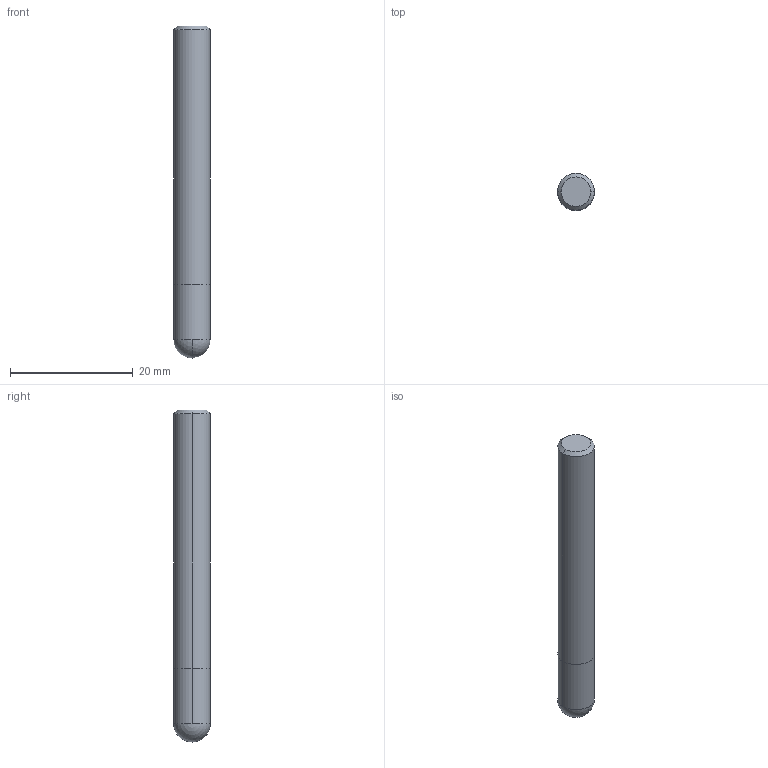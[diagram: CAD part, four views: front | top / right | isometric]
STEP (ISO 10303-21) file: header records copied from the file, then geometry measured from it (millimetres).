
FILE_DESCRIPTION (( 'STEP AP214' ), '1' );
FILE_NAME ('664.060.00_3D-model.step', '2022-02-19T00:28:32', ( '' ), ( '' ), 'SwSTEP 2.0', 'SolidWorks 2020', '' );
FILE_SCHEMA (( 'AUTOMOTIVE_DESIGN' ));
Length unit declared in the file: millimetre
Products named in the file (3): 664.060.00_3D-model; CUT-3D^Baugr142; NOCUT-3D^Baugr142
Assembly tree (2 placements, depth 2):
  664.060.00_3D-model
    CUT-3D^Baugr142
    NOCUT-3D^Baugr142
Bounding box: 6 x 6 x 54 mm (x, y, z)
Volume: 1495.4 mm3; surface area: 1095.6 mm2
Topology: 2 solids, 2 shells, 11 faces, 22 edges, 13 vertices
Faces by surface type: cylinder 4, plane 3, sphere 2, cone 2
Entity records: 402 total; most frequent: DIRECTION 72, CARTESIAN_POINT 52, ORIENTED_EDGE 40, AXIS2_PLACEMENT_3D 33, EDGE_CURVE 20, CIRCLE 14, VERTEX_POINT 13, EDGE_LOOP 11
